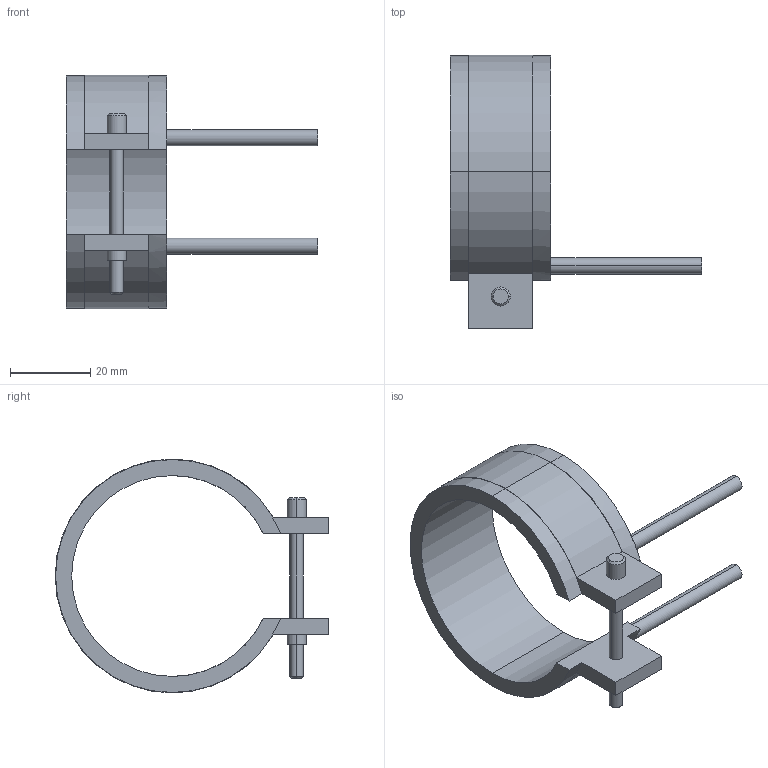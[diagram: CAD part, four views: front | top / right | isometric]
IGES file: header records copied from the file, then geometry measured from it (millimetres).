
Start section: START RECORD GO HERE.
Global section: file name: 14050025.igs; native system: DASSAULT SYSTEMES CATIA V5 R20 - www.3ds.com; preprocessor: CATIA Version 5 Release 20 ; author: Utente; organization: NB04-ASUS; date: 20210331.135521; units: millimetre
Bounding box: 62.5 x 68.1 x 58.2 mm (x, y, z)
Surface area: 11199.1 mm2 (no closed solid volume)
Topology: 0 solids, 0 shells, 45 faces, 232 edges, 232 vertices
Faces by surface type: revolution 28, plane 17
